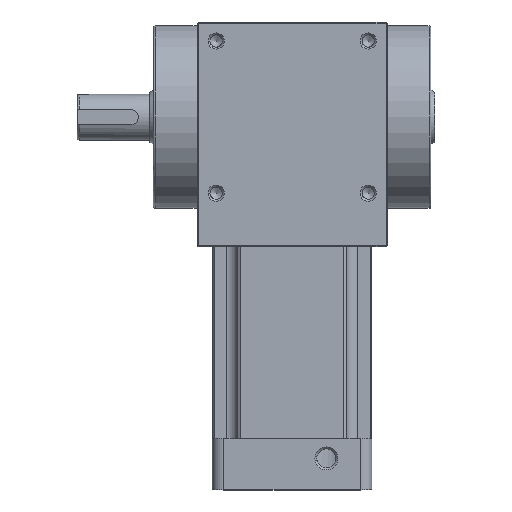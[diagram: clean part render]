
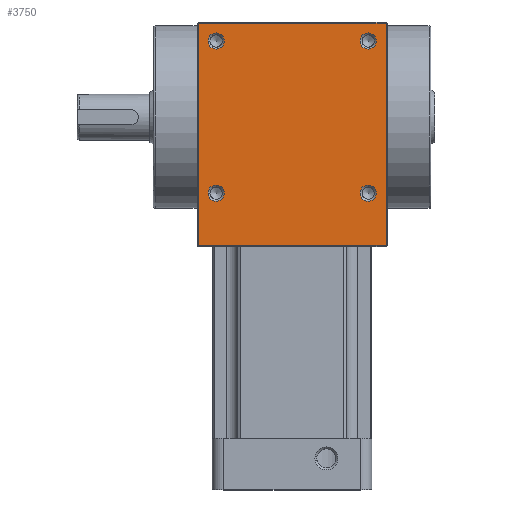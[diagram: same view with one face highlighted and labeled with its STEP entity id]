
A CAD part, top view. The second image highlights one B-rep face of the part: STEP entity #3750.
In plain terms, the highlighted planar face has unit normal (0, 0, 1).
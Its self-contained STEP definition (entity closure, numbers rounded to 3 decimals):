
#3631=CARTESIAN_POINT('',(-24.7,-33.7,50.0));
#3632=VERTEX_POINT('',#3631);
#3639=CARTESIAN_POINT('',(-24.7,24.7,50.0));
#3640=VERTEX_POINT('',#3639);
#3641=CARTESIAN_POINT('',(-24.7,24.7,50.0));
#3642=DIRECTION('',(0.0,-1.0,0.0));
#3643=VECTOR('',#3642,58.4);
#3644=LINE('',#3641,#3643);
#3645=EDGE_CURVE('',#3640,#3632,#3644,.T.);
#3663=CARTESIAN_POINT('',(24.7,-33.7,50.0));
#3664=VERTEX_POINT('',#3663);
#3671=CARTESIAN_POINT('',(24.7,-33.7,50.0));
#3672=DIRECTION('',(-1.0,0.0,0.0));
#3673=VECTOR('',#3672,49.4);
#3674=LINE('',#3671,#3673);
#3675=EDGE_CURVE('',#3664,#3632,#3674,.T.);
#3683=CARTESIAN_POINT('',(0.,0.0,50.0));
#3684=DIRECTION('',(0.0,0.0,1.0));
#3685=DIRECTION('',(1.0,0.0,0.0));
#3686=AXIS2_PLACEMENT_3D('',#3683,#3684,#3685);
#3687=PLANE('',#3686);
#3688=ORIENTED_EDGE('',*,*,#3675,.F.);
#3689=CARTESIAN_POINT('',(24.7,24.7,50.0));
#3690=VERTEX_POINT('',#3689);
#3691=CARTESIAN_POINT('',(24.7,24.7,50.0));
#3692=DIRECTION('',(0.0,-1.0,0.0));
#3693=VECTOR('',#3692,58.4);
#3694=LINE('',#3691,#3693);
#3695=EDGE_CURVE('',#3690,#3664,#3694,.T.);
#3696=ORIENTED_EDGE('',*,*,#3695,.F.);
#3697=CARTESIAN_POINT('',(-24.7,24.7,50.0));
#3698=DIRECTION('',(1.0,0.0,0.0));
#3699=VECTOR('',#3698,49.4);
#3700=LINE('',#3697,#3699);
#3701=EDGE_CURVE('',#3640,#3690,#3700,.T.);
#3702=ORIENTED_EDGE('',*,*,#3701,.F.);
#3703=ORIENTED_EDGE('',*,*,#3645,.T.);
#3704=EDGE_LOOP('',(#3688,#3696,#3702,#3703));
#3705=FACE_OUTER_BOUND('',#3704,.T.);
#3706=CARTESIAN_POINT('',(-17.879,-20.0,50.0));
#3707=VERTEX_POINT('',#3706);
#3708=CARTESIAN_POINT('',(-20.,-20.0,50.0));
#3709=DIRECTION('',(0.0,0.0,1.0));
#3710=DIRECTION('',(-1.0,0.0,0.0));
#3711=AXIS2_PLACEMENT_3D('',#3708,#3709,#3710);
#3712=CIRCLE('',#3711,2.121);
#3713=EDGE_CURVE('',#3707,#3707,#3712,.T.);
#3714=ORIENTED_EDGE('',*,*,#3713,.F.);
#3715=EDGE_LOOP('',(#3714));
#3716=FACE_BOUND('',#3715,.T.);
#3717=CARTESIAN_POINT('',(22.121,20.0,50.0));
#3718=VERTEX_POINT('',#3717);
#3719=CARTESIAN_POINT('',(20.0,20.0,50.0));
#3720=DIRECTION('',(0.0,0.0,1.0));
#3721=DIRECTION('',(-1.0,0.0,0.0));
#3722=AXIS2_PLACEMENT_3D('',#3719,#3720,#3721);
#3723=CIRCLE('',#3722,2.121);
#3724=EDGE_CURVE('',#3718,#3718,#3723,.T.);
#3725=ORIENTED_EDGE('',*,*,#3724,.F.);
#3726=EDGE_LOOP('',(#3725));
#3727=FACE_BOUND('',#3726,.T.);
#3728=CARTESIAN_POINT('',(-17.879,20.0,50.0));
#3729=VERTEX_POINT('',#3728);
#3730=CARTESIAN_POINT('',(-20.,20.0,50.0));
#3731=DIRECTION('',(0.0,0.0,1.0));
#3732=DIRECTION('',(-1.0,0.0,0.0));
#3733=AXIS2_PLACEMENT_3D('',#3730,#3731,#3732);
#3734=CIRCLE('',#3733,2.121);
#3735=EDGE_CURVE('',#3729,#3729,#3734,.T.);
#3736=ORIENTED_EDGE('',*,*,#3735,.F.);
#3737=EDGE_LOOP('',(#3736));
#3738=FACE_BOUND('',#3737,.T.);
#3739=CARTESIAN_POINT('',(22.121,-20.0,50.0));
#3740=VERTEX_POINT('',#3739);
#3741=CARTESIAN_POINT('',(20.,-20.0,50.0));
#3742=DIRECTION('',(0.0,0.0,1.0));
#3743=DIRECTION('',(-1.0,0.0,0.0));
#3744=AXIS2_PLACEMENT_3D('',#3741,#3742,#3743);
#3745=CIRCLE('',#3744,2.121);
#3746=EDGE_CURVE('',#3740,#3740,#3745,.T.);
#3747=ORIENTED_EDGE('',*,*,#3746,.F.);
#3748=EDGE_LOOP('',(#3747));
#3749=FACE_BOUND('',#3748,.T.);
#3750=ADVANCED_FACE('',(#3705,#3716,#3727,#3738,#3749),#3687,.T.);
